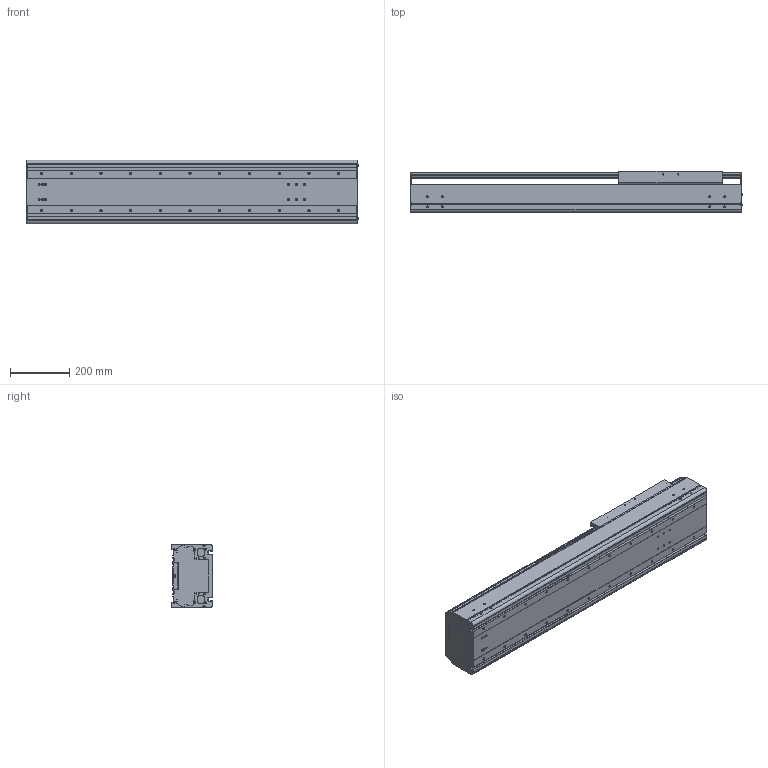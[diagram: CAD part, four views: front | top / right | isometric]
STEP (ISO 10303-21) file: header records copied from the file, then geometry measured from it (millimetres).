
FILE_DESCRIPTION((''),'2;1');
FILE_NAME('BE60G-ST-L_N-65_IGS_PRT','2017-06-18T',(' '),(''),'PRO/ENGINEER BY PARAMETRIC TECHNOLOGY CORPORATION, 2015030','PRO/ENGINEER BY PARAMETRIC TECHNOLOGY CORPORATION, 2015030','');
FILE_SCHEMA(('CONFIG_CONTROL_DESIGN'));
Length unit declared in the file: millimetre
Products named in the file (1): BE60G-ST-L_N-65_IGS_PRT
Bounding box: 1117.4 x 140 x 214 mm (x, y, z)
Volume: 9629303.5 mm3; surface area: 2510833.9 mm2
Topology: 2 solids, 130 shells, 1504 faces, 4172 edges, 2733 vertices
Faces by surface type: cylinder 752, plane 600, cone 104, sphere 24, torus 24
Entity records: 49773 total; most frequent: CARTESIAN_POINT 10923, DIRECTION 8244, ORIENTED_EDGE 7636, EDGE_CURVE 4070, AXIS2_PLACEMENT_3D 3065, VERTEX_POINT 2732, VECTOR 2114, LINE 2114
